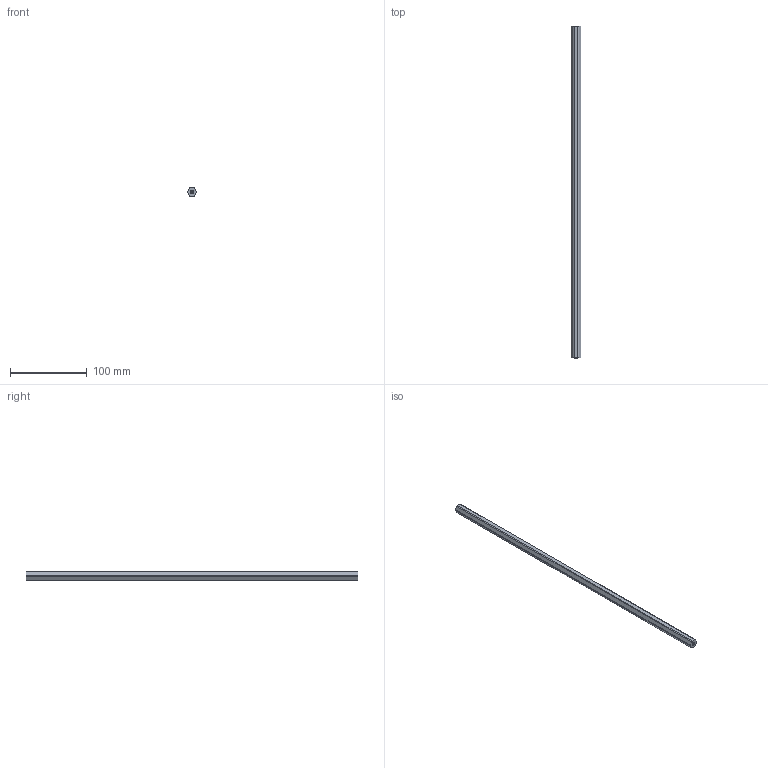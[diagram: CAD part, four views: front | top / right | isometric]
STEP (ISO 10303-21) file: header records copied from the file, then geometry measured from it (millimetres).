
FILE_DESCRIPTION (( 'STEP AP203' ), '1' );
FILE_NAME ('2104-0012-0432.STEP', '2018-03-09T17:46:02', ( '' ), ( '' ), 'SwSTEP 2.0', 'SolidWorks 2016', '' );
FILE_SCHEMA (( 'CONFIG_CONTROL_DESIGN' ));
Length unit declared in the file: millimetre
Products named in the file (1): 2104-0012-0432
Bounding box: 11.99 x 432 x 11 mm (x, y, z)
Volume: 40936.4 mm3; surface area: 20803.9 mm2
Topology: 1 solids, 1 shells, 190 faces, 558 edges, 370 vertices
Faces by surface type: cylinder 168, plane 10, cone 8, bspline 4
Entity records: 11993 total; most frequent: CARTESIAN_POINT 7843, ORIENTED_EDGE 1116, DIRECTION 624, EDGE_CURVE 558, VERTEX_POINT 370, AXIS2_PLACEMENT_3D 217, EDGE_LOOP 192, VECTOR 190
